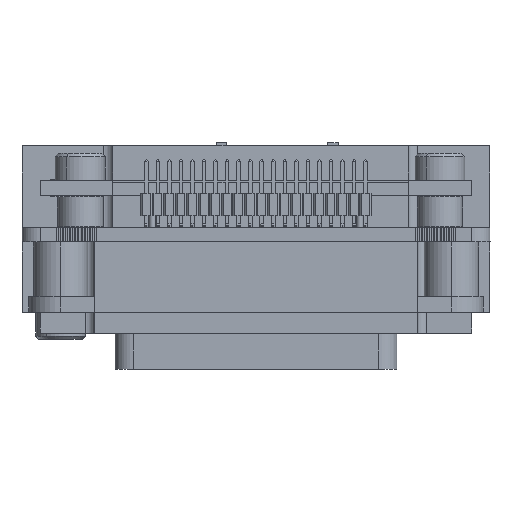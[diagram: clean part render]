
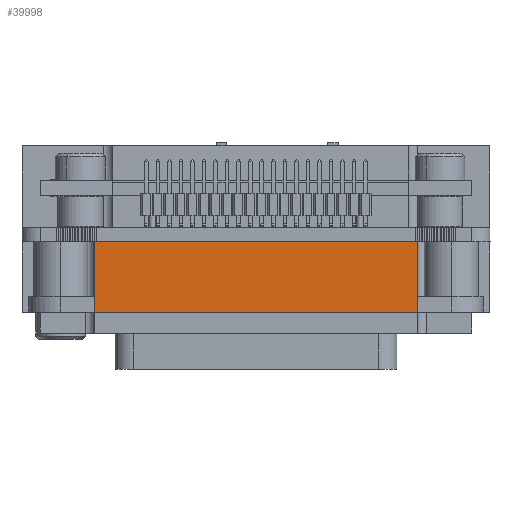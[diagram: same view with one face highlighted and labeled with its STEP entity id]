
A CAD part, left-side view. The second image highlights one B-rep face of the part: STEP entity #39998.
In plain terms, the highlighted planar face has unit normal (-1, 0, 0).
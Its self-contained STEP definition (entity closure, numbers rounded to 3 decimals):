
#1016 = PLANE ( 'NONE',  #20482 ) ;
#1106 = LINE ( 'NONE', #25816, #27274 ) ;
#1206 = CARTESIAN_POINT ( 'NONE',  ( -192.25, -17.75, -18.501 ) ) ;
#1475 = DIRECTION ( 'NONE',  ( 0., -1., 0. ) ) ;
#2805 = VERTEX_POINT ( 'NONE', #24268 ) ;
#4878 = LINE ( 'NONE', #28907, #20282 ) ;
#5127 = EDGE_CURVE ( 'NONE', #40389, #25026, #40039, .T. ) ;
#8275 = DIRECTION ( 'NONE',  ( 0., 1., 0. ) ) ;
#9110 = DIRECTION ( 'NONE',  ( 0., 0., 1. ) ) ;
#11044 = CARTESIAN_POINT ( 'NONE',  ( -192.25, 17.75, -18.501 ) ) ;
#11701 = CARTESIAN_POINT ( 'NONE',  ( -192.25, 17.75, -10.761 ) ) ;
#13762 = ORIENTED_EDGE ( 'NONE', *, *, #18971, .F. ) ;
#15160 = DIRECTION ( 'NONE',  ( -1., 0., 0. ) ) ;
#18971 = EDGE_CURVE ( 'NONE', #41022, #40389, #1106, .T. ) ;
#19733 = CARTESIAN_POINT ( 'NONE',  ( -192.25, -17.75, -15.761 ) ) ;
#20282 = VECTOR ( 'NONE', #36039, 1000. ) ;
#20418 = ORIENTED_EDGE ( 'NONE', *, *, #44621, .T. ) ;
#20482 = AXIS2_PLACEMENT_3D ( 'NONE', #22520, #15160, #1475 ) ;
#22067 = FACE_OUTER_BOUND ( 'NONE', #27217, .T. ) ;
#22520 = CARTESIAN_POINT ( 'NONE',  ( -192.25, -17.75, -15.761 ) ) ;
#23033 = CARTESIAN_POINT ( 'NONE',  ( -192.25, 17.75, -15.761 ) ) ;
#23201 = LINE ( 'NONE', #19733, #38188 ) ;
#24268 = CARTESIAN_POINT ( 'NONE',  ( -192.25, -17.75, -10.761 ) ) ;
#24315 = VECTOR ( 'NONE', #26906, 1000. ) ;
#25026 = VERTEX_POINT ( 'NONE', #11701 ) ;
#25816 = CARTESIAN_POINT ( 'NONE',  ( -192.25, 17.75, -18.501 ) ) ;
#25823 = ORIENTED_EDGE ( 'NONE', *, *, #5127, .F. ) ;
#26906 = DIRECTION ( 'NONE',  ( 0., 0., 1. ) ) ;
#27217 = EDGE_LOOP ( 'NONE', ( #20418, #42579, #25823, #13762 ) ) ;
#27274 = VECTOR ( 'NONE', #8275, 1000. ) ;
#28907 = CARTESIAN_POINT ( 'NONE',  ( -192.25, -17.75, -10.761 ) ) ;
#36039 = DIRECTION ( 'NONE',  ( 0., -1., 0. ) ) ;
#38188 = VECTOR ( 'NONE', #9110, 1000. ) ;
#38494 = EDGE_CURVE ( 'NONE', #25026, #2805, #4878, .T. ) ;
#39998 = ADVANCED_FACE ( 'NONE', ( #22067 ), #1016, .T. ) ;
#40039 = LINE ( 'NONE', #23033, #24315 ) ;
#40389 = VERTEX_POINT ( 'NONE', #11044 ) ;
#41022 = VERTEX_POINT ( 'NONE', #1206 ) ;
#42579 = ORIENTED_EDGE ( 'NONE', *, *, #38494, .F. ) ;
#44621 = EDGE_CURVE ( 'NONE', #41022, #2805, #23201, .T. ) ;
